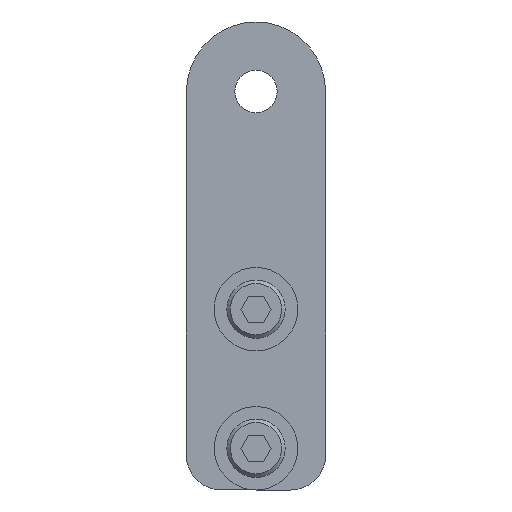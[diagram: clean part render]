
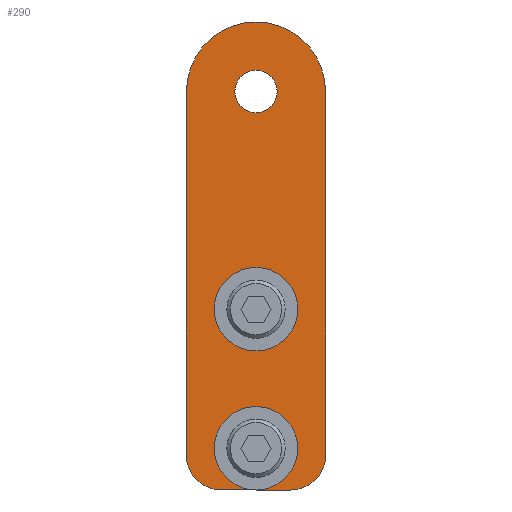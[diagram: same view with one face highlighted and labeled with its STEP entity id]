
A CAD part, left-side view. The second image highlights one B-rep face of the part: STEP entity #290.
In plain terms, the highlighted planar face has unit normal (-1, 0, 0) as drawn and (0, 0, 1) by its records, which use the part's own axes.
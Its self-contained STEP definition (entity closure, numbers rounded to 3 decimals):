
#290=ADVANCED_FACE('',(#558,#559,#560,#561),#562,.T.);
#558=FACE_BOUND('',#894,.T.);
#559=FACE_BOUND('',#895,.T.);
#560=FACE_BOUND('',#896,.T.);
#561=FACE_OUTER_BOUND('',#897,.T.);
#562=PLANE('',#898);
#894=EDGE_LOOP('',(#1227));
#895=EDGE_LOOP('',(#1228));
#896=EDGE_LOOP('',(#1229));
#897=EDGE_LOOP('',(#1230,#1231,#1232,#1233,#1234,#1235));
#898=AXIS2_PLACEMENT_3D('',#1236,#1237,#1238);
#1227=ORIENTED_EDGE('',*,*,#2045,.T.);
#1228=ORIENTED_EDGE('',*,*,#2057,.T.);
#1229=ORIENTED_EDGE('',*,*,#2058,.T.);
#1230=ORIENTED_EDGE('',*,*,#2059,.T.);
#1231=ORIENTED_EDGE('',*,*,#2060,.T.);
#1232=ORIENTED_EDGE('',*,*,#2061,.T.);
#1233=ORIENTED_EDGE('',*,*,#2062,.T.);
#1234=ORIENTED_EDGE('',*,*,#2063,.T.);
#1235=ORIENTED_EDGE('',*,*,#2064,.T.);
#1236=CARTESIAN_POINT('',(10.0,57.3,2.0));
#1237=DIRECTION('',(0.0,0.0,1.0));
#1238=DIRECTION('',(1.0,0.0,0.0));
#2045=EDGE_CURVE('',#2366,#2366,#2367,.T.);
#2057=EDGE_CURVE('',#2388,#2388,#2389,.T.);
#2058=EDGE_CURVE('',#2390,#2390,#2391,.T.);
#2059=EDGE_CURVE('',#2392,#2393,#2394,.T.);
#2060=EDGE_CURVE('',#2393,#2395,#2396,.T.);
#2061=EDGE_CURVE('',#2395,#2397,#2398,.T.);
#2062=EDGE_CURVE('',#2397,#2399,#2400,.T.);
#2063=EDGE_CURVE('',#2399,#2401,#2402,.T.);
#2064=EDGE_CURVE('',#2401,#2392,#2403,.T.);
#2366=VERTEX_POINT('',#2845);
#2367=CIRCLE('',#2846,3.05);
#2388=VERTEX_POINT('',#2870);
#2389=CIRCLE('',#2871,2.55);
#2390=VERTEX_POINT('',#2872);
#2391=CIRCLE('',#2873,2.55);
#2392=VERTEX_POINT('',#2874);
#2393=VERTEX_POINT('',#2875);
#2394=LINE('',#2876,#2877);
#2395=VERTEX_POINT('',#2878);
#2396=CIRCLE('',#2879,10.0);
#2397=VERTEX_POINT('',#2880);
#2398=LINE('',#2881,#2882);
#2399=VERTEX_POINT('',#2883);
#2400=CIRCLE('',#2884,5.0);
#2401=VERTEX_POINT('',#2885);
#2402=LINE('',#2886,#2887);
#2403=CIRCLE('',#2888,5.0);
#2845=CARTESIAN_POINT('',(6.95,57.3,2.0));
#2846=AXIS2_PLACEMENT_3D('',#3499,#3500,#3501);
#2870=CARTESIAN_POINT('',(7.45,26.0,2.0));
#2871=AXIS2_PLACEMENT_3D('',#3523,#3524,#3525);
#2872=CARTESIAN_POINT('',(7.45,6.0,2.0));
#2873=AXIS2_PLACEMENT_3D('',#3526,#3527,#3528);
#2874=CARTESIAN_POINT('',(20.0,5.0,2.0));
#2875=CARTESIAN_POINT('',(20.0,57.3,2.0));
#2876=CARTESIAN_POINT('',(20.0,5.0,2.0));
#2877=VECTOR('',#3529,1.0);
#2878=CARTESIAN_POINT('',(0.,57.3,2.0));
#2879=AXIS2_PLACEMENT_3D('',#3530,#3531,#3532);
#2880=CARTESIAN_POINT('',(0.,5.0,2.0));
#2881=CARTESIAN_POINT('',(0.,57.3,2.0));
#2882=VECTOR('',#3533,1.0);
#2883=CARTESIAN_POINT('',(5.0,0.0,2.0));
#2884=AXIS2_PLACEMENT_3D('',#3534,#3535,#3536);
#2885=CARTESIAN_POINT('',(15.0,0.0,2.0));
#2886=CARTESIAN_POINT('',(5.0,0.0,2.0));
#2887=VECTOR('',#3537,1.0);
#2888=AXIS2_PLACEMENT_3D('',#3538,#3539,#3540);
#3499=CARTESIAN_POINT('',(10.0,57.3,2.0));
#3500=DIRECTION('',(0.0,0.0,-1.0));
#3501=DIRECTION('',(-1.0,0.0,0.0));
#3523=CARTESIAN_POINT('',(10.0,26.0,2.0));
#3524=DIRECTION('',(0.0,0.0,-1.0));
#3525=DIRECTION('',(-1.0,0.0,0.0));
#3526=CARTESIAN_POINT('',(10.0,6.0,2.0));
#3527=DIRECTION('',(0.0,0.0,-1.0));
#3528=DIRECTION('',(-1.0,0.0,0.0));
#3529=DIRECTION('',(0.0,1.0,0.0));
#3530=CARTESIAN_POINT('',(10.0,57.3,2.0));
#3531=DIRECTION('',(0.0,0.0,1.0));
#3532=DIRECTION('',(1.0,0.0,0.0));
#3533=DIRECTION('',(0.0,-1.0,0.0));
#3534=CARTESIAN_POINT('',(5.0,5.0,2.0));
#3535=DIRECTION('',(0.0,0.0,1.0));
#3536=DIRECTION('',(1.0,0.0,0.0));
#3537=DIRECTION('',(1.0,0.0,0.0));
#3538=CARTESIAN_POINT('',(15.0,5.0,2.0));
#3539=DIRECTION('',(0.0,0.0,1.0));
#3540=DIRECTION('',(1.0,0.0,0.0));
